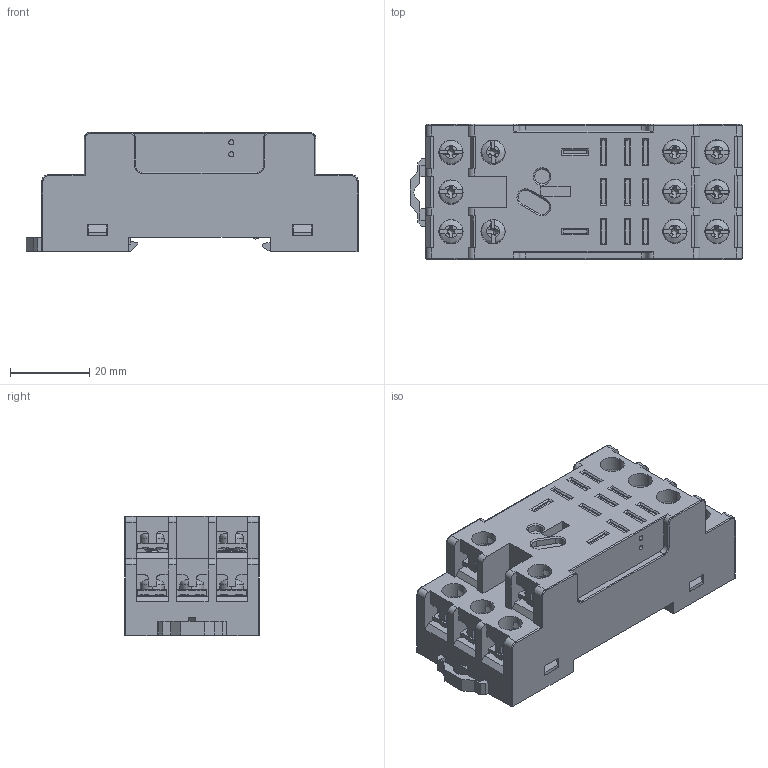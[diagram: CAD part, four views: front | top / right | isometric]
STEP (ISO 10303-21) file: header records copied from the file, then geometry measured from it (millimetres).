
FILE_DESCRIPTION (( 'STEP AP203' ), '1' );
FILE_NAME ('STB11-E 俋倛.STEP', '2023-02-03T03:57:38', ( '' ), ( '' ), 'SwSTEP 2.0', 'SolidWorks 2018', '' );
FILE_SCHEMA (( 'CONFIG_CONTROL_DESIGN' ));
Length unit declared in the file: millimetre
Products named in the file (1): STB11-E 俋倛
Bounding box: 83.62 x 34.1 x 30 mm (x, y, z)
Volume: 58281.2 mm3; surface area: 20119 mm2
Topology: 1 solids, 10 shells, 1736 faces, 4839 edges, 3121 vertices
Faces by surface type: plane 1254, cylinder 270, cone 138, bspline 58, torus 16
Entity records: 68969 total; most frequent: CARTESIAN_POINT 25451, ORIENTED_EDGE 9634, DIRECTION 8309, EDGE_CURVE 4817, LINE 3229, VECTOR 3229, VERTEX_POINT 3121, AXIS2_PLACEMENT_3D 2540
